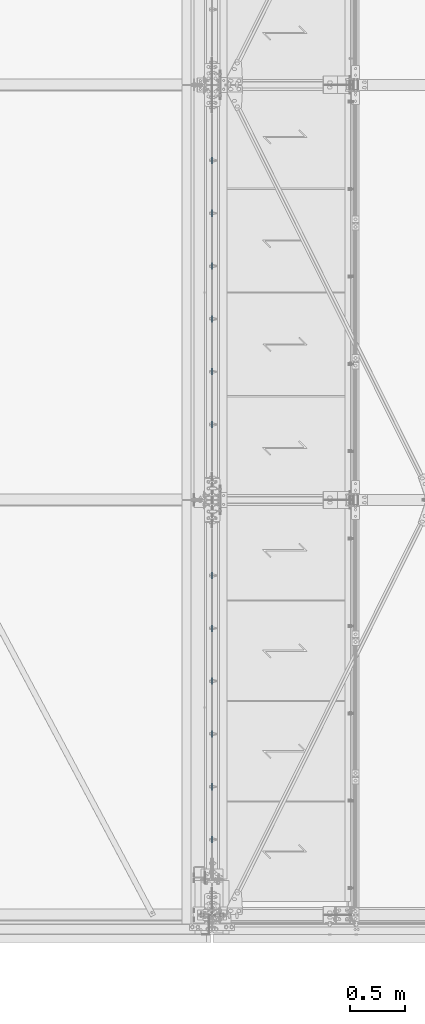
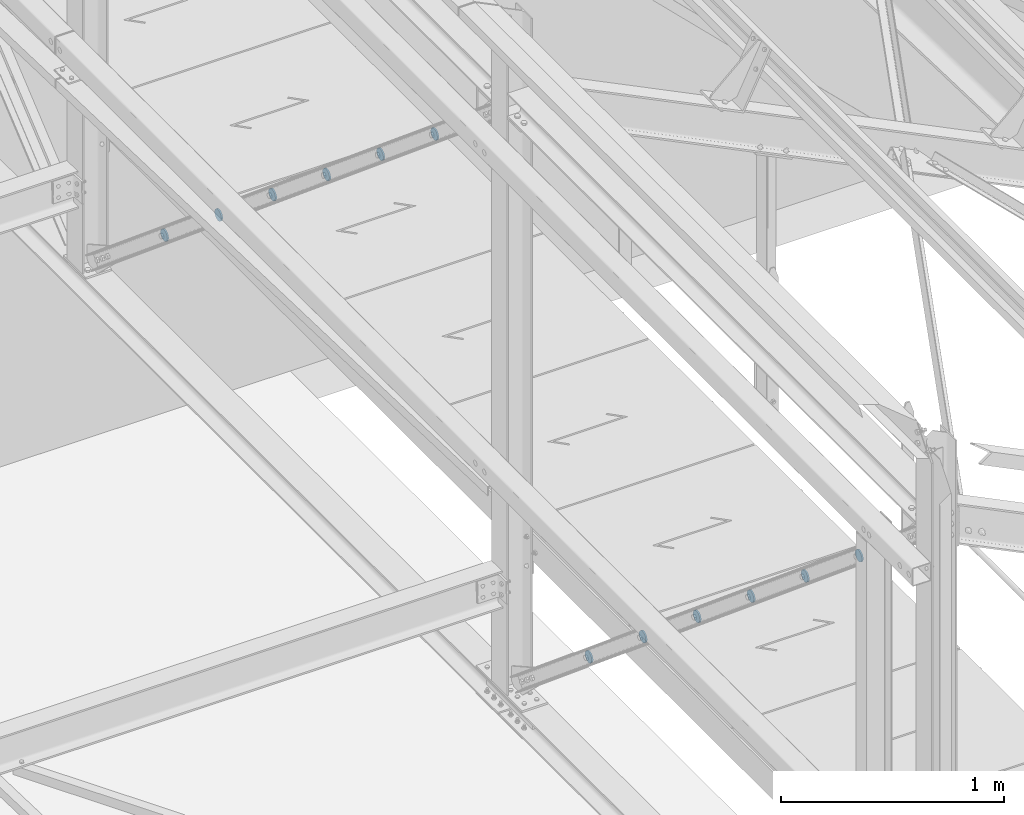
# One storey, part 125 of 362: 12 beams, 12 elements without a shape of their own.
"""IFC2X3 building model written with IfcOpenShell, lengths in millimetres."""

from ifc_helpers import new_model, si_unit, frame, frame_2d, origin_with_axes, place, context, subcontext, project, spatial, circle_curve, parameter, trimmed, segment, composite_curve, outline, extrude, material, type_object, element, aggregate, save


model = new_model("IFC2X3")

# Units and contexts
model_context = context("Model", 3, precision=1e-05, world=origin_with_axes())
body_context = subcontext(model_context, "Body", "Model", "MODEL_VIEW")
ifc_project = project(units=[si_unit("LENGTHUNIT", "METRE", prefix="MILLI"), si_unit("AREAUNIT", "SQUARE_METRE"), si_unit("VOLUMEUNIT", "CUBIC_METRE"), si_unit("MASSUNIT", "GRAM", prefix="KILO"), si_unit("TIMEUNIT", "SECOND"), si_unit("PLANEANGLEUNIT", "RADIAN"), si_unit("SOLIDANGLEUNIT", "STERADIAN"), si_unit("THERMODYNAMICTEMPERATUREUNIT", "DEGREE_CELSIUS"), si_unit("LUMINOUSINTENSITYUNIT", "LUMEN")], contexts=[model_context])

# Site, building, storey
site_placement = place(None, origin_with_axes())
site = spatial("IfcSite", under=ifc_project, at=site_placement, Name="Undefined", CompositionType="ELEMENT")
building_placement = place(site_placement, origin_with_axes())
building = spatial("IfcBuilding", under=site, at=building_placement, Name="Undefined", CompositionType="ELEMENT")
storey_placement = place(building_placement, origin_with_axes())
storey = spatial("IfcBuildingStorey", under=building, at=storey_placement, Name="Undefined", CompositionType="ELEMENT", Elevation=0.0)

# Assembly, beam
assembly_1_placement = place(storey_placement, origin_with_axes())
assembly_1 = element("IfcElementAssembly", 1, at=assembly_1_placement, inside=storey, AssemblyPlace="NOTDEFINED", PredefinedType="NOTDEFINED")
ifc_material = material(Name="Undefined/S235-E24")
beam_type = type_object("IfcBeamType", Name="TOLE8*60", PredefinedType="NOTDEFINED")
beam_1_placement = place(assembly_1_placement, frame((34280.0, 720.897340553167, 9876.10450176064), z_axis=(-1.0, 0.0, 0.0), x_axis=(0.0, 0.0, -1.0)))
beam_1 = element("IfcBeam", 2, at=beam_1_placement, type_object=beam_type, material=ifc_material, Name="PLAQUETTE", ObjectType="TOLE8*60", context=body_context, shape_type="SweptSolid", body=[
    extrude(outline(composite_curve([segment(trimmed(circle_curve(frame_2d((30.0, 30.0), x_axis=(-1.0, 0.0)), 30.0), [parameter(0.0)], [parameter(1.5707963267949)], True, "PARAMETER"), True, "CONTINUOUS"), segment(trimmed(circle_curve(frame_2d((30.0, 30.0), x_axis=(0.0, -1.0)), 30.0), [parameter(0.0)], [parameter(1.5707963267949)], True, "PARAMETER"), True, "CONTINUOUS"), segment(trimmed(circle_curve(frame_2d((30.0, 30.0), x_axis=(1.0, 0.0)), 30.0), [parameter(0.0)], [parameter(1.5707963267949)], True, "PARAMETER"), True, "CONTINUOUS"), segment(trimmed(circle_curve(frame_2d((30.0, 30.0), x_axis=(0.0, 1.0)), 30.0), [parameter(0.0)], [parameter(1.5707963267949)], True, "PARAMETER"), True, "CONTINUOUS")], self_intersect=True)), frame((0.0, 0.0, -4.0), z_axis=(0.0, 0.0, 1.0), x_axis=(1.0, 0.0, 0.0)), (0.0, 0.0, 1.0), 8.0),
])
aggregate(assembly_1, [beam_1])

assembly_2_placement = place(storey_placement, origin_with_axes())
assembly_2 = element("IfcElementAssembly", 3, at=assembly_2_placement, inside=storey, AssemblyPlace="NOTDEFINED", PredefinedType="NOTDEFINED")
beam_2_placement = place(assembly_2_placement, frame((34280.0, 1204.53950978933, 9472.26270393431), z_axis=(-1.0, 0.0, 0.0), x_axis=(0.0, 0.0, -1.0)))
beam_2 = element("IfcBeam", 4, at=beam_2_placement, type_object=beam_type, material=ifc_material, Name="PLAQUETTE", ObjectType="TOLE8*60", context=body_context, shape_type="SweptSolid", body=[
    extrude(outline(composite_curve([segment(trimmed(circle_curve(frame_2d((30.0, 30.0), x_axis=(-1.0, 0.0)), 30.0), [parameter(0.0)], [parameter(1.5707963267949)], True, "PARAMETER"), True, "CONTINUOUS"), segment(trimmed(circle_curve(frame_2d((30.0, 30.0), x_axis=(0.0, -1.0)), 30.0), [parameter(0.0)], [parameter(1.5707963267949)], True, "PARAMETER"), True, "CONTINUOUS"), segment(trimmed(circle_curve(frame_2d((30.0, 30.0), x_axis=(1.0, 0.0)), 30.0), [parameter(0.0)], [parameter(1.5707963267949)], True, "PARAMETER"), True, "CONTINUOUS"), segment(trimmed(circle_curve(frame_2d((30.0, 30.0), x_axis=(0.0, 1.0)), 30.0), [parameter(0.0)], [parameter(1.5707963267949)], True, "PARAMETER"), True, "CONTINUOUS")], self_intersect=True)), frame((0.0, 0.0, -4.0), z_axis=(0.0, 0.0, 1.0), x_axis=(1.0, 0.0, 0.0)), (0.0, 0.0, 1.0), 8.0),
])
aggregate(assembly_2, [beam_2])

assembly_3_placement = place(storey_placement, origin_with_axes())
assembly_3 = element("IfcElementAssembly", 5, at=assembly_3_placement, inside=storey, AssemblyPlace="NOTDEFINED", PredefinedType="NOTDEFINED")
beam_3_placement = place(assembly_3_placement, frame((34280.0, 1688.1816790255, 9068.42090610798), z_axis=(-1.0, 0.0, 0.0), x_axis=(0.0, 0.0, -1.0)))
beam_3 = element("IfcBeam", 6, at=beam_3_placement, type_object=beam_type, material=ifc_material, Name="PLAQUETTE", ObjectType="TOLE8*60", context=body_context, shape_type="SweptSolid", body=[
    extrude(outline(composite_curve([segment(trimmed(circle_curve(frame_2d((30.0, 30.0), x_axis=(-1.0, 0.0)), 30.0), [parameter(0.0)], [parameter(1.5707963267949)], True, "PARAMETER"), True, "CONTINUOUS"), segment(trimmed(circle_curve(frame_2d((30.0, 30.0), x_axis=(0.0, -1.0)), 30.0), [parameter(0.0)], [parameter(1.5707963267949)], True, "PARAMETER"), True, "CONTINUOUS"), segment(trimmed(circle_curve(frame_2d((30.0, 30.0), x_axis=(1.0, 0.0)), 30.0), [parameter(0.0)], [parameter(1.5707963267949)], True, "PARAMETER"), True, "CONTINUOUS"), segment(trimmed(circle_curve(frame_2d((30.0, 30.0), x_axis=(0.0, 1.0)), 30.0), [parameter(0.0)], [parameter(1.5707963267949)], True, "PARAMETER"), True, "CONTINUOUS")], self_intersect=True)), frame((0.0, 0.0, -4.0), z_axis=(0.0, 0.0, 1.0), x_axis=(1.0, 0.0, 0.0)), (0.0, 0.0, 1.0), 8.0),
])
aggregate(assembly_3, [beam_3])

assembly_4_placement = place(storey_placement, origin_with_axes())
assembly_4 = element("IfcElementAssembly", 7, at=assembly_4_placement, inside=storey, AssemblyPlace="NOTDEFINED", PredefinedType="NOTDEFINED")
beam_4_placement = place(assembly_4_placement, frame((34280.0, 2171.82384826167, 8664.57910828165), z_axis=(-1.0, 0.0, 0.0), x_axis=(0.0, 0.0, -1.0)))
beam_4 = element("IfcBeam", 8, at=beam_4_placement, type_object=beam_type, material=ifc_material, Name="PLAQUETTE", ObjectType="TOLE8*60", context=body_context, shape_type="SweptSolid", body=[
    extrude(outline(composite_curve([segment(trimmed(circle_curve(frame_2d((30.0, 30.0), x_axis=(-1.0, 0.0)), 30.0), [parameter(0.0)], [parameter(1.5707963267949)], True, "PARAMETER"), True, "CONTINUOUS"), segment(trimmed(circle_curve(frame_2d((30.0, 30.0), x_axis=(0.0, -1.0)), 30.0), [parameter(0.0)], [parameter(1.5707963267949)], True, "PARAMETER"), True, "CONTINUOUS"), segment(trimmed(circle_curve(frame_2d((30.0, 30.0), x_axis=(1.0, 0.0)), 30.0), [parameter(0.0)], [parameter(1.5707963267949)], True, "PARAMETER"), True, "CONTINUOUS"), segment(trimmed(circle_curve(frame_2d((30.0, 30.0), x_axis=(0.0, 1.0)), 30.0), [parameter(0.0)], [parameter(1.5707963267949)], True, "PARAMETER"), True, "CONTINUOUS")], self_intersect=True)), frame((0.0, 0.0, -4.0), z_axis=(0.0, 0.0, 1.0), x_axis=(1.0, 0.0, 0.0)), (0.0, 0.0, 1.0), 8.0),
])
aggregate(assembly_4, [beam_4])

assembly_5_placement = place(storey_placement, origin_with_axes())
assembly_5 = element("IfcElementAssembly", 9, at=assembly_5_placement, inside=storey, AssemblyPlace="NOTDEFINED", PredefinedType="NOTDEFINED")
beam_5_placement = place(assembly_5_placement, frame((34280.0, 2655.46601749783, 8260.73731045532), z_axis=(-1.0, 0.0, 0.0), x_axis=(0.0, 0.0, -1.0)))
beam_5 = element("IfcBeam", 10, at=beam_5_placement, type_object=beam_type, material=ifc_material, Name="PLAQUETTE", ObjectType="TOLE8*60", context=body_context, shape_type="SweptSolid", body=[
    extrude(outline(composite_curve([segment(trimmed(circle_curve(frame_2d((30.0, 30.0), x_axis=(-1.0, 0.0)), 30.0), [parameter(0.0)], [parameter(1.5707963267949)], True, "PARAMETER"), True, "CONTINUOUS"), segment(trimmed(circle_curve(frame_2d((30.0, 30.0), x_axis=(0.0, -1.0)), 30.0), [parameter(0.0)], [parameter(1.5707963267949)], True, "PARAMETER"), True, "CONTINUOUS"), segment(trimmed(circle_curve(frame_2d((30.0, 30.0), x_axis=(1.0, 0.0)), 30.0), [parameter(0.0)], [parameter(1.5707963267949)], True, "PARAMETER"), True, "CONTINUOUS"), segment(trimmed(circle_curve(frame_2d((30.0, 30.0), x_axis=(0.0, 1.0)), 30.0), [parameter(0.0)], [parameter(1.5707963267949)], True, "PARAMETER"), True, "CONTINUOUS")], self_intersect=True)), frame((0.0, 0.0, -4.0), z_axis=(0.0, 0.0, 1.0), x_axis=(1.0, 0.0, 0.0)), (0.0, 0.0, 1.0), 8.0),
])
aggregate(assembly_5, [beam_5])

assembly_6_placement = place(storey_placement, origin_with_axes())
assembly_6 = element("IfcElementAssembly", 11, at=assembly_6_placement, inside=storey, AssemblyPlace="NOTDEFINED", PredefinedType="NOTDEFINED")
beam_6_placement = place(assembly_6_placement, frame((34280.0, 3139.108186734, 7856.89551262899), z_axis=(-1.0, 0.0, 0.0), x_axis=(0.0, 0.0, -1.0)))
beam_6 = element("IfcBeam", 12, at=beam_6_placement, type_object=beam_type, material=ifc_material, Name="PLAQUETTE", ObjectType="TOLE8*60", context=body_context, shape_type="SweptSolid", body=[
    extrude(outline(composite_curve([segment(trimmed(circle_curve(frame_2d((30.0, 30.0), x_axis=(-1.0, 0.0)), 30.0), [parameter(0.0)], [parameter(1.5707963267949)], True, "PARAMETER"), True, "CONTINUOUS"), segment(trimmed(circle_curve(frame_2d((30.0, 30.0), x_axis=(0.0, -1.0)), 30.0), [parameter(0.0)], [parameter(1.5707963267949)], True, "PARAMETER"), True, "CONTINUOUS"), segment(trimmed(circle_curve(frame_2d((30.0, 30.0), x_axis=(1.0, 0.0)), 30.0), [parameter(0.0)], [parameter(1.5707963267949)], True, "PARAMETER"), True, "CONTINUOUS"), segment(trimmed(circle_curve(frame_2d((30.0, 30.0), x_axis=(0.0, 1.0)), 30.0), [parameter(0.0)], [parameter(1.5707963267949)], True, "PARAMETER"), True, "CONTINUOUS")], self_intersect=True)), frame((0.0, 0.0, -4.0), z_axis=(0.0, 0.0, 1.0), x_axis=(1.0, 0.0, 0.0)), (0.0, 0.0, 1.0), 8.0),
])
aggregate(assembly_6, [beam_6])

assembly_7_placement = place(storey_placement, origin_with_axes())
assembly_7 = element("IfcElementAssembly", 13, at=assembly_7_placement, inside=storey, AssemblyPlace="NOTDEFINED", PredefinedType="NOTDEFINED")
beam_7_placement = place(assembly_7_placement, frame((34280.0, 4520.89269244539, 9876.10460257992), z_axis=(-1.0, 0.0, 0.0), x_axis=(0.0, 0.0, -1.0)))
beam_7 = element("IfcBeam", 14, at=beam_7_placement, type_object=beam_type, material=ifc_material, Name="PLAQUETTE", ObjectType="TOLE8*60", context=body_context, shape_type="SweptSolid", body=[
    extrude(outline(composite_curve([segment(trimmed(circle_curve(frame_2d((30.0, 30.0), x_axis=(-1.0, 0.0)), 30.0), [parameter(0.0)], [parameter(1.5707963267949)], True, "PARAMETER"), True, "CONTINUOUS"), segment(trimmed(circle_curve(frame_2d((30.0, 30.0), x_axis=(0.0, -1.0)), 30.0), [parameter(0.0)], [parameter(1.5707963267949)], True, "PARAMETER"), True, "CONTINUOUS"), segment(trimmed(circle_curve(frame_2d((30.0, 30.0), x_axis=(1.0, 0.0)), 30.0), [parameter(0.0)], [parameter(1.5707963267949)], True, "PARAMETER"), True, "CONTINUOUS"), segment(trimmed(circle_curve(frame_2d((30.0, 30.0), x_axis=(0.0, 1.0)), 30.0), [parameter(0.0)], [parameter(1.5707963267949)], True, "PARAMETER"), True, "CONTINUOUS")], self_intersect=True)), frame((0.0, 0.0, -4.0), z_axis=(0.0, 0.0, 1.0), x_axis=(1.0, 0.0, 0.0)), (0.0, 0.0, 1.0), 8.0),
])
aggregate(assembly_7, [beam_7])

assembly_8_placement = place(storey_placement, origin_with_axes())
assembly_8 = element("IfcElementAssembly", 15, at=assembly_8_placement, inside=storey, AssemblyPlace="NOTDEFINED", PredefinedType="NOTDEFINED")
beam_8_placement = place(assembly_8_placement, frame((34280.0, 5004.53561570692, 9472.26276165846), z_axis=(-1.0, 0.0, 0.0), x_axis=(0.0, 0.0, -1.0)))
beam_8 = element("IfcBeam", 16, at=beam_8_placement, type_object=beam_type, material=ifc_material, Name="PLAQUETTE", ObjectType="TOLE8*60", context=body_context, shape_type="SweptSolid", body=[
    extrude(outline(composite_curve([segment(trimmed(circle_curve(frame_2d((30.0, 30.0), x_axis=(-1.0, 0.0)), 30.0), [parameter(0.0)], [parameter(1.5707963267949)], True, "PARAMETER"), True, "CONTINUOUS"), segment(trimmed(circle_curve(frame_2d((30.0, 30.0), x_axis=(0.0, -1.0)), 30.0), [parameter(0.0)], [parameter(1.5707963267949)], True, "PARAMETER"), True, "CONTINUOUS"), segment(trimmed(circle_curve(frame_2d((30.0, 30.0), x_axis=(1.0, 0.0)), 30.0), [parameter(0.0)], [parameter(1.5707963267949)], True, "PARAMETER"), True, "CONTINUOUS"), segment(trimmed(circle_curve(frame_2d((30.0, 30.0), x_axis=(0.0, 1.0)), 30.0), [parameter(0.0)], [parameter(1.5707963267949)], True, "PARAMETER"), True, "CONTINUOUS")], self_intersect=True)), frame((0.0, 0.0, -4.0), z_axis=(0.0, 0.0, 1.0), x_axis=(1.0, 0.0, 0.0)), (0.0, 0.0, 1.0), 8.0),
])
aggregate(assembly_8, [beam_8])

assembly_9_placement = place(storey_placement, origin_with_axes())
assembly_9 = element("IfcElementAssembly", 17, at=assembly_9_placement, inside=storey, AssemblyPlace="NOTDEFINED", PredefinedType="NOTDEFINED")
beam_9_placement = place(assembly_9_placement, frame((34280.0, 5488.17853896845, 9068.420920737), z_axis=(-1.0, 0.0, 0.0), x_axis=(0.0, 0.0, -1.0)))
beam_9 = element("IfcBeam", 18, at=beam_9_placement, type_object=beam_type, material=ifc_material, Name="PLAQUETTE", ObjectType="TOLE8*60", context=body_context, shape_type="SweptSolid", body=[
    extrude(outline(composite_curve([segment(trimmed(circle_curve(frame_2d((30.0, 30.0), x_axis=(-1.0, 0.0)), 30.0), [parameter(0.0)], [parameter(1.5707963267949)], True, "PARAMETER"), True, "CONTINUOUS"), segment(trimmed(circle_curve(frame_2d((30.0, 30.0), x_axis=(0.0, -1.0)), 30.0), [parameter(0.0)], [parameter(1.5707963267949)], True, "PARAMETER"), True, "CONTINUOUS"), segment(trimmed(circle_curve(frame_2d((30.0, 30.0), x_axis=(1.0, 0.0)), 30.0), [parameter(0.0)], [parameter(1.5707963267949)], True, "PARAMETER"), True, "CONTINUOUS"), segment(trimmed(circle_curve(frame_2d((30.0, 30.0), x_axis=(0.0, 1.0)), 30.0), [parameter(0.0)], [parameter(1.5707963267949)], True, "PARAMETER"), True, "CONTINUOUS")], self_intersect=True)), frame((0.0, 0.0, -4.0), z_axis=(0.0, 0.0, 1.0), x_axis=(1.0, 0.0, 0.0)), (0.0, 0.0, 1.0), 8.0),
])
aggregate(assembly_9, [beam_9])

assembly_10_placement = place(storey_placement, origin_with_axes())
assembly_10 = element("IfcElementAssembly", 19, at=assembly_10_placement, inside=storey, AssemblyPlace="NOTDEFINED", PredefinedType="NOTDEFINED")
beam_10_placement = place(assembly_10_placement, frame((34280.0, 5971.82146222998, 8664.57907981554), z_axis=(-1.0, 0.0, 0.0), x_axis=(0.0, 0.0, -1.0)))
beam_10 = element("IfcBeam", 20, at=beam_10_placement, type_object=beam_type, material=ifc_material, Name="PLAQUETTE", ObjectType="TOLE8*60", context=body_context, shape_type="SweptSolid", body=[
    extrude(outline(composite_curve([segment(trimmed(circle_curve(frame_2d((30.0, 30.0), x_axis=(-1.0, 0.0)), 30.0), [parameter(0.0)], [parameter(1.5707963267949)], True, "PARAMETER"), True, "CONTINUOUS"), segment(trimmed(circle_curve(frame_2d((30.0, 30.0), x_axis=(0.0, -1.0)), 30.0), [parameter(0.0)], [parameter(1.5707963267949)], True, "PARAMETER"), True, "CONTINUOUS"), segment(trimmed(circle_curve(frame_2d((30.0, 30.0), x_axis=(1.0, 0.0)), 30.0), [parameter(0.0)], [parameter(1.5707963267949)], True, "PARAMETER"), True, "CONTINUOUS"), segment(trimmed(circle_curve(frame_2d((30.0, 30.0), x_axis=(0.0, 1.0)), 30.0), [parameter(0.0)], [parameter(1.5707963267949)], True, "PARAMETER"), True, "CONTINUOUS")], self_intersect=True)), frame((0.0, 0.0, -4.0), z_axis=(0.0, 0.0, 1.0), x_axis=(1.0, 0.0, 0.0)), (0.0, 0.0, 1.0), 8.0),
])
aggregate(assembly_10, [beam_10])

assembly_11_placement = place(storey_placement, origin_with_axes())
assembly_11 = element("IfcElementAssembly", 21, at=assembly_11_placement, inside=storey, AssemblyPlace="NOTDEFINED", PredefinedType="NOTDEFINED")
beam_11_placement = place(assembly_11_placement, frame((34280.0, 6455.46438549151, 8260.73723889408), z_axis=(-1.0, 0.0, 0.0), x_axis=(0.0, 0.0, -1.0)))
beam_11 = element("IfcBeam", 22, at=beam_11_placement, type_object=beam_type, material=ifc_material, Name="PLAQUETTE", ObjectType="TOLE8*60", context=body_context, shape_type="SweptSolid", body=[
    extrude(outline(composite_curve([segment(trimmed(circle_curve(frame_2d((30.0, 30.0), x_axis=(-1.0, 0.0)), 30.0), [parameter(0.0)], [parameter(1.5707963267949)], True, "PARAMETER"), True, "CONTINUOUS"), segment(trimmed(circle_curve(frame_2d((30.0, 30.0), x_axis=(0.0, -1.0)), 30.0), [parameter(0.0)], [parameter(1.5707963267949)], True, "PARAMETER"), True, "CONTINUOUS"), segment(trimmed(circle_curve(frame_2d((30.0, 30.0), x_axis=(1.0, 0.0)), 30.0), [parameter(0.0)], [parameter(1.5707963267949)], True, "PARAMETER"), True, "CONTINUOUS"), segment(trimmed(circle_curve(frame_2d((30.0, 30.0), x_axis=(0.0, 1.0)), 30.0), [parameter(0.0)], [parameter(1.5707963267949)], True, "PARAMETER"), True, "CONTINUOUS")], self_intersect=True)), frame((0.0, 0.0, -4.0), z_axis=(0.0, 0.0, 1.0), x_axis=(1.0, 0.0, 0.0)), (0.0, 0.0, 1.0), 8.0),
])
aggregate(assembly_11, [beam_11])

assembly_12_placement = place(storey_placement, origin_with_axes())
assembly_12 = element("IfcElementAssembly", 23, at=assembly_12_placement, inside=storey, AssemblyPlace="NOTDEFINED", PredefinedType="NOTDEFINED")
beam_12_placement = place(assembly_12_placement, frame((34280.0, 6939.10730875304, 7856.89539797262), z_axis=(-1.0, 0.0, 0.0), x_axis=(0.0, 0.0, -1.0)))
beam_12 = element("IfcBeam", 24, at=beam_12_placement, type_object=beam_type, material=ifc_material, Name="PLAQUETTE", ObjectType="TOLE8*60", context=body_context, shape_type="SweptSolid", body=[
    extrude(outline(composite_curve([segment(trimmed(circle_curve(frame_2d((30.0, 30.0), x_axis=(-1.0, 0.0)), 30.0), [parameter(0.0)], [parameter(1.5707963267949)], True, "PARAMETER"), True, "CONTINUOUS"), segment(trimmed(circle_curve(frame_2d((30.0, 30.0), x_axis=(0.0, -1.0)), 30.0), [parameter(0.0)], [parameter(1.5707963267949)], True, "PARAMETER"), True, "CONTINUOUS"), segment(trimmed(circle_curve(frame_2d((30.0, 30.0), x_axis=(1.0, 0.0)), 30.0), [parameter(0.0)], [parameter(1.5707963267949)], True, "PARAMETER"), True, "CONTINUOUS"), segment(trimmed(circle_curve(frame_2d((30.0, 30.0), x_axis=(0.0, 1.0)), 30.0), [parameter(0.0)], [parameter(1.5707963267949)], True, "PARAMETER"), True, "CONTINUOUS")], self_intersect=True)), frame((0.0, 0.0, -4.0), z_axis=(0.0, 0.0, 1.0), x_axis=(1.0, 0.0, 0.0)), (0.0, 0.0, 1.0), 8.0),
])
aggregate(assembly_12, [beam_12])

save(model, "model.ifc")
